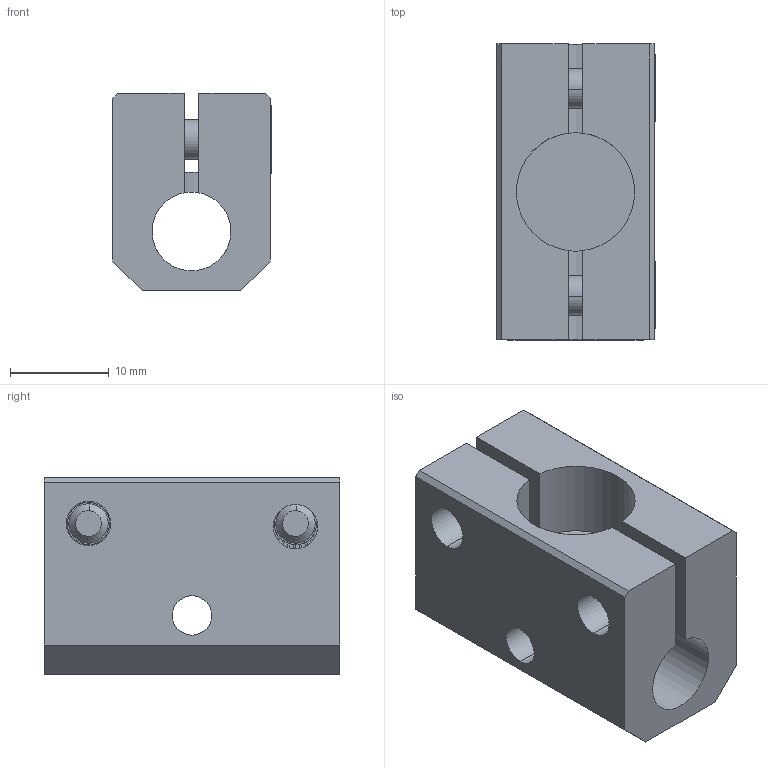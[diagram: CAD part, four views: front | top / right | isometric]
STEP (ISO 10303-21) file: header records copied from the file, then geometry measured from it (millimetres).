
FILE_DESCRIPTION (( 'STEP AP214' ), '1' );
FILE_NAME ('SMBF-0812T.STEP', '2022-12-28T08:52:16', ( 'Windows User' ), ( 'P R C' ), 'SwSTEP 2.0', 'SolidWorks 2018', '' );
FILE_SCHEMA (( 'AUTOMOTIVE_DESIGN' ));
Length unit declared in the file: millimetre
Products named in the file (1): SMBF-0812T
Bounding box: 16.1 x 30 x 20 mm (x, y, z)
Volume: 6250.9 mm3; surface area: 5037.6 mm2
Topology: 5 solids, 5 shells, 473 faces, 1363 edges, 898 vertices
Faces by surface type: plane 422, cylinder 39, cone 8, bspline 4
Entity records: 21200 total; most frequent: CARTESIAN_POINT 3093, DIRECTION 2735, ORIENTED_EDGE 2726, EDGE_CURVE 1363, AXIS2_PLACEMENT_3D 920, VERTEX_POINT 898, VECTOR 895, LINE 895
